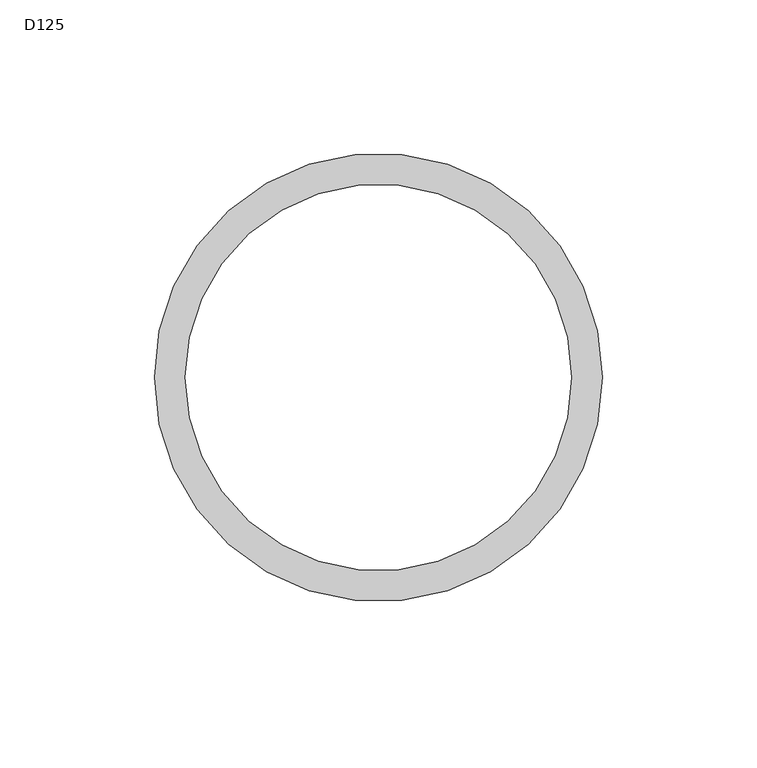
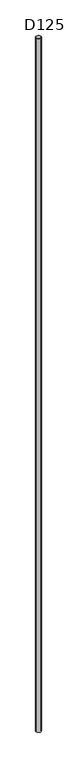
"""IFC4 building model written with IfcOpenShell, lengths in millimetres: proxy geometry, GM_Вентканал_О : D125."""

from ifc_helpers import new_model, si_unit, point, frame, origin, origin_2d, place, context, project, spatial, circle_curve, trimmed, segment, composite_curve, outline, extrude, source, transform, mapped, element, save


def d125_998d2ca0(model_context):
    return source(origin(), model_context, "Body", "SweptSolid", [
        extrude(outline(composite_curve([segment(trimmed(circle_curve(origin_2d(), 72.5), [point((-72.5, 0.0))], [point((72.5, 0.0))], False, "CARTESIAN"), True, "CONTINUOUS"), segment(trimmed(circle_curve(origin_2d(), 72.5), [point((72.5, 0.0))], [point((-72.5, 0.0))], False, "CARTESIAN"), True, "CONTINUOUS")], self_intersect=False), holes=[composite_curve([segment(trimmed(circle_curve(origin_2d(), 62.5), [point((-62.5, 0.0))], [point((62.5, 0.0))], True, "CARTESIAN"), True, "CONTINUOUS"), segment(trimmed(circle_curve(origin_2d(), 62.5), [point((62.5, 0.0))], [point((-62.5, 0.0))], True, "CARTESIAN"), True, "CONTINUOUS")], self_intersect=False)]), frame((0.0, 0.0, 7800.0), z_axis=(0.0, 0.0, 1.0), x_axis=(1.0, 0.0, 0.0)), (0.0, 0.0, 1.0), 21900.0),
    ])


if __name__ == "__main__":
    model = new_model("IFC4")
    model_context = context("Model", 3, world=origin())
    ifc_project = project(units=[si_unit("LENGTHUNIT", "METRE", prefix="MILLI")], contexts=[model_context])
    site = spatial("IfcSite", under=ifc_project)
    building = spatial("IfcBuilding", under=site)
    placement = place(None, origin())
    d125_shape = d125_998d2ca0(model_context)
    element("IfcBuildingElementProxy", 1, Name="GM_Вентканал_О : D125", ObjectType="GM_Вентканал_О : D125", at=placement, inside=building, context=model_context, shape_type="MappedRepresentation", body=[
        mapped(d125_shape, transform((0.0, 0.0, 0.0), x_axis=(1.0, 0.0, 0.0), y_axis=(0.0, 1.0, 0.0), z_axis=(0.0, 0.0, 1.0))),
    ])
    save(model, "model.ifc")
